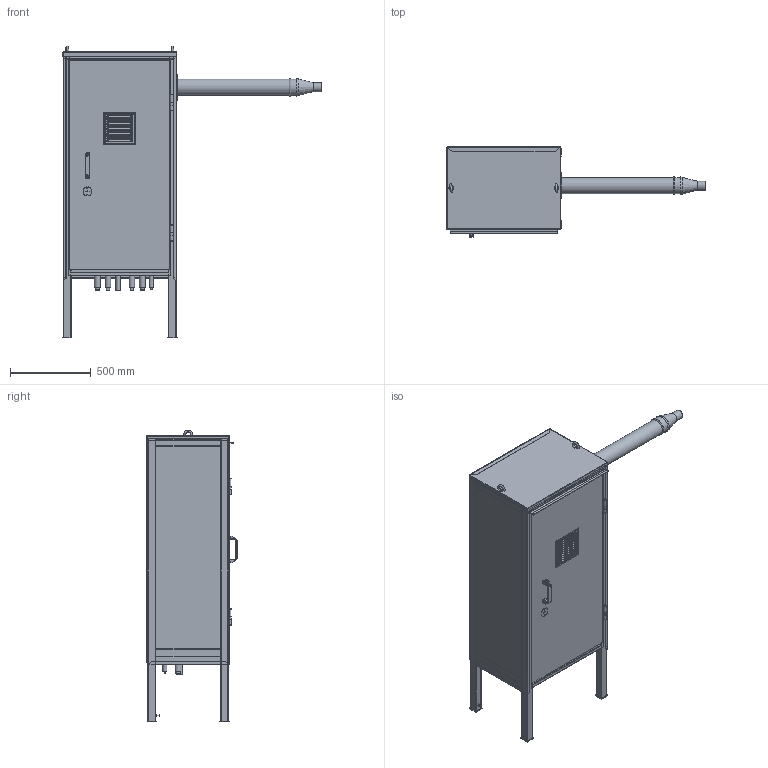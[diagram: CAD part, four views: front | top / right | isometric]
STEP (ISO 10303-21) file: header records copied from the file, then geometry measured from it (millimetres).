
FILE_DESCRIPTION(('STEP AP214'), '1');
FILE_NAME('VS10-50 - ECO NOVA 31F 挓鎀霠罻 3D 斁麧錪', '', ('UNSPECIFIED'), ('UNSPECIFIED'), 'C3D Converter', 'C3D Toolkit', '');
FILE_SCHEMA(('AUTOMOTIVE_DESIGN { 1 0 10303 214 3 1 1}'));
Length unit declared in the file: millimetre
Products named in the file (1): VS10-50
Bounding box: 1600.88 x 559.41 x 1805.87 mm (x, y, z)
Volume: 19642160.7 mm3; surface area: 12832845.8 mm2
Topology: 10 solids, 27 shells, 1365 faces, 3671 edges, 2275 vertices
Faces by surface type: plane 881, cylinder 324, torus 77, sphere 52, cone 21, bspline 10
Full cylindrical faces by diameter (mm): 4 x4, 5 x2, 6.2 x2, 8 x3, 10 x1, 10.106 x2, 11 x2, 12 x3, 12.5 x4, 13 x4, 16.3 x2, 18 x3, 20.955 x2, 21.041 x2, 21.2 x1, 22 x2, 24 x2, 26 x2, 26.441 x4, 28 x2, 34 x4, 36 x4, 54 x1, 55 x1, 99 x3, 100 x4
Entity records: 60881 total; most frequent: CARTESIAN_POINT 16246, DIRECTION 6886, ORIENTED_EDGE 6862, EDGE_CURVE 3515, AXIS2_PLACEMENT_3D 2349, VERTEX_POINT 2273, LINE 2188, VECTOR 2188
